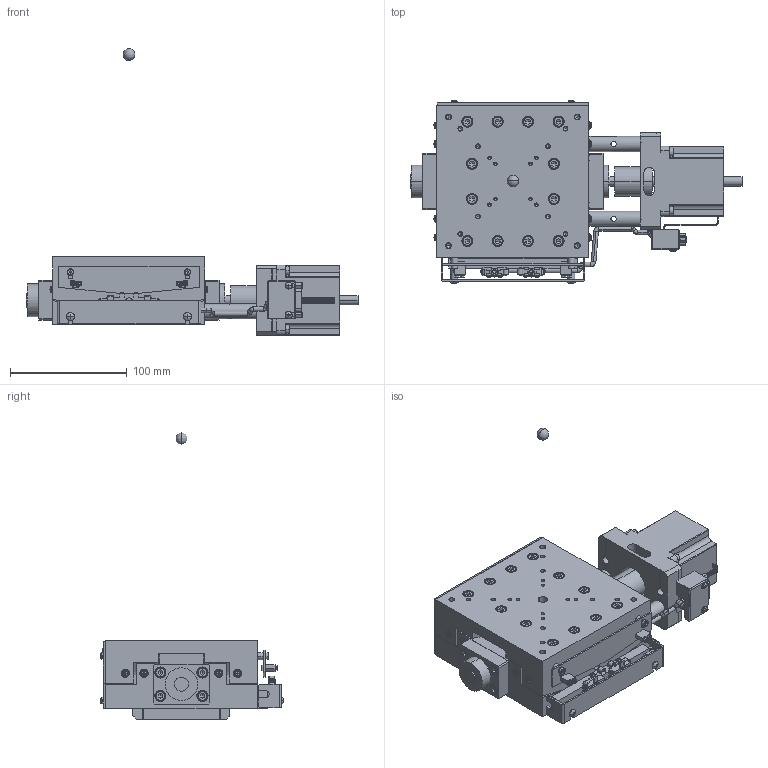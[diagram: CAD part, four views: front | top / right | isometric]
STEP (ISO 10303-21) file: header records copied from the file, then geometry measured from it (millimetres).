
FILE_DESCRIPTION( (''), '2;1');
FILE_NAME ('MVSA13A-RM01-R.stp','2021-03-16T10:51:56',(''),(''),'spGate 15.6.6','','');
FILE_SCHEMA (('AUTOMOTIVE_DESIGN'));
Length unit declared in the file: millimetre
Products named in the file (4): Assembly; MVSA13A-RM01-R-prt0; MVSA13A-RM01-R-prt1; MVSA13A-RM01-R-prt2
Assembly tree (3 placements, depth 2):
  Assembly
    MVSA13A-RM01-R-prt0
    MVSA13A-RM01-R-prt1
    MVSA13A-RM01-R-prt2
Bounding box: 283.8 x 156.67 x 245 mm (x, y, z)
Volume: 1282696.7 mm3; surface area: 209128 mm2
Topology: 3 solids, 3 shells, 3785 faces, 9539 edges, 5824 vertices
Faces by surface type: plane 2164, cylinder 989, bspline 559, sphere 73
Entity records: 193505 total; most frequent: CARTESIAN_POINT 31370, ORIENTED_EDGE 18694, DIRECTION 17246, COLOUR_RGB 13135, PRESENTATION_STYLE_ASSIGNMENT 13135, STYLED_ITEM 13135, EDGE_CURVE 9347, DRAUGHTING_PRE_DEFINED_CURVE_FONT 9347
